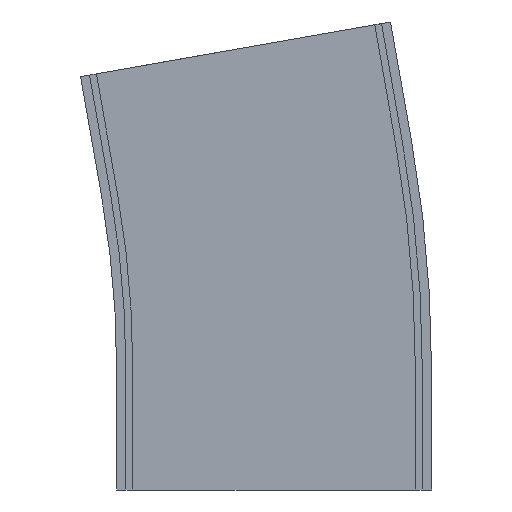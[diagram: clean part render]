
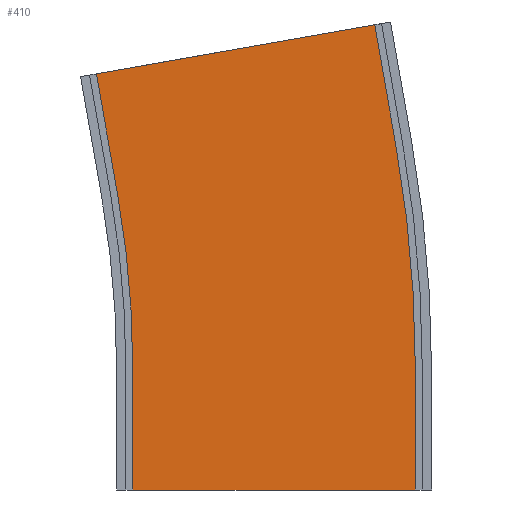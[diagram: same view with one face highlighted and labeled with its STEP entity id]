
A CAD part, left-side view. The second image highlights one B-rep face of the part: STEP entity #410.
In plain terms, the highlighted planar face has unit normal (-1, 0, 0).
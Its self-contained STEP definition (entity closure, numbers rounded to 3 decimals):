
#20 = VERTEX_POINT ( 'NONE', #854 ) ;
#49 = DIRECTION ( 'NONE',  ( 0., 1., 0. ) ) ;
#54 = VECTOR ( 'NONE', #979, 1000. ) ;
#64 = CARTESIAN_POINT ( 'NONE',  ( -173., 500., 52.5 ) ) ;
#99 = CARTESIAN_POINT ( 'NONE',  ( -173., -52.723, 149.96 ) ) ;
#108 = VERTEX_POINT ( 'NONE', #739 ) ;
#152 = CARTESIAN_POINT ( 'NONE',  ( -173., 61.25, 0. ) ) ;
#195 = ORIENTED_EDGE ( 'NONE', *, *, #918, .T. ) ;
#222 = EDGE_CURVE ( 'NONE', #1346, #748, #344, .T. ) ;
#229 = ORIENTED_EDGE ( 'NONE', *, *, #853, .T. ) ;
#236 = DIRECTION ( 'NONE',  ( 0., 0., 1. ) ) ;
#239 = CARTESIAN_POINT ( 'NONE',  ( -173., 500., 52.5 ) ) ;
#254 = DIRECTION ( 'NONE',  ( 1., 0., 0. ) ) ;
#280 = DIRECTION ( 'NONE',  ( 0., 0., 1. ) ) ;
#323 = EDGE_CURVE ( 'NONE', #748, #1130, #1407, .T. ) ;
#328 = VECTOR ( 'NONE', #1220, 1000. ) ;
#336 = VERTEX_POINT ( 'NONE', #152 ) ;
#344 = CIRCLE ( 'NONE', #497, 438.75 ) ;
#353 = CARTESIAN_POINT ( 'NONE',  ( -173., -61.25, 0. ) ) ;
#410 = ADVANCED_FACE ( 'NONE', ( #1321 ), #693, .F. ) ;
#453 = DIRECTION ( 'NONE',  ( 0., -1., 0. ) ) ;
#469 = DIRECTION ( 'NONE',  ( 0., 0., -1. ) ) ;
#497 = AXIS2_PLACEMENT_3D ( 'NONE', #239, #879, #236 ) ;
#513 = EDGE_CURVE ( 'NONE', #20, #763, #794, .T. ) ;
#565 = CARTESIAN_POINT ( 'NONE',  ( -173., 61.25, 52.5 ) ) ;
#595 = LINE ( 'NONE', #565, #936 ) ;
#640 = AXIS2_PLACEMENT_3D ( 'NONE', #64, #934, #280 ) ;
#652 = ORIENTED_EDGE ( 'NONE', *, *, #892, .T. ) ;
#693 = PLANE ( 'NONE',  #1097 ) ;
#739 = CARTESIAN_POINT ( 'NONE',  ( -173., -43.607, 201.662 ) ) ;
#745 = LINE ( 'NONE', #1288, #883 ) ;
#748 = VERTEX_POINT ( 'NONE', #1395 ) ;
#763 = VERTEX_POINT ( 'NONE', #99 ) ;
#767 = VERTEX_POINT ( 'NONE', #965 ) ;
#784 = CARTESIAN_POINT ( 'NONE',  ( -173., 61.25, 52.5 ) ) ;
#788 = CARTESIAN_POINT ( 'NONE',  ( -173., -61.25, 52.5 ) ) ;
#794 = CIRCLE ( 'NONE', #640, 561.25 ) ;
#795 = EDGE_CURVE ( 'NONE', #1130, #108, #1222, .T. ) ;
#801 = CARTESIAN_POINT ( 'NONE',  ( -173., 77.032, 180.391 ) ) ;
#803 = ORIENTED_EDGE ( 'NONE', *, *, #323, .F. ) ;
#853 = EDGE_CURVE ( 'NONE', #763, #108, #745, .T. ) ;
#854 = CARTESIAN_POINT ( 'NONE',  ( -173., -61.25, 52.5 ) ) ;
#879 = DIRECTION ( 'NONE',  ( -1., 0., 0. ) ) ;
#883 = VECTOR ( 'NONE', #1324, 1000. ) ;
#892 = EDGE_CURVE ( 'NONE', #1346, #336, #595, .T. ) ;
#918 = EDGE_CURVE ( 'NONE', #336, #767, #1153, .T. ) ;
#934 = DIRECTION ( 'NONE',  ( -1., 0., 0. ) ) ;
#936 = VECTOR ( 'NONE', #469, 1000. ) ;
#940 = ORIENTED_EDGE ( 'NONE', *, *, #222, .F. ) ;
#965 = CARTESIAN_POINT ( 'NONE',  ( -173., -61.25, 0. ) ) ;
#979 = DIRECTION ( 'NONE',  ( 0., -0.985, 0.174 ) ) ;
#983 = LINE ( 'NONE', #1254, #1136 ) ;
#1097 = AXIS2_PLACEMENT_3D ( 'NONE', #788, #254, #49 ) ;
#1119 = VECTOR ( 'NONE', #453, 1000. ) ;
#1128 = EDGE_LOOP ( 'NONE', ( #195, #1213, #1291, #229, #1342, #803, #940, #652 ) ) ;
#1130 = VERTEX_POINT ( 'NONE', #801 ) ;
#1136 = VECTOR ( 'NONE', #1355, 1000. ) ;
#1153 = LINE ( 'NONE', #353, #1119 ) ;
#1155 = EDGE_CURVE ( 'NONE', #20, #767, #983, .T. ) ;
#1213 = ORIENTED_EDGE ( 'NONE', *, *, #1155, .F. ) ;
#1220 = DIRECTION ( 'NONE',  ( 0., 0.174, 0.985 ) ) ;
#1222 = LINE ( 'NONE', #1293, #54 ) ;
#1254 = CARTESIAN_POINT ( 'NONE',  ( -173., -61.25, 52.5 ) ) ;
#1288 = CARTESIAN_POINT ( 'NONE',  ( -173., -52.723, 149.96 ) ) ;
#1291 = ORIENTED_EDGE ( 'NONE', *, *, #513, .T. ) ;
#1293 = CARTESIAN_POINT ( 'NONE',  ( -173., -43.607, 201.662 ) ) ;
#1321 = FACE_OUTER_BOUND ( 'NONE', #1128, .T. ) ;
#1324 = DIRECTION ( 'NONE',  ( 0., 0.174, 0.985 ) ) ;
#1334 = CARTESIAN_POINT ( 'NONE',  ( -173., 67.916, 128.688 ) ) ;
#1342 = ORIENTED_EDGE ( 'NONE', *, *, #795, .F. ) ;
#1346 = VERTEX_POINT ( 'NONE', #784 ) ;
#1355 = DIRECTION ( 'NONE',  ( 0., 0., -1. ) ) ;
#1395 = CARTESIAN_POINT ( 'NONE',  ( -173., 67.916, 128.688 ) ) ;
#1407 = LINE ( 'NONE', #1334, #328 ) ;
